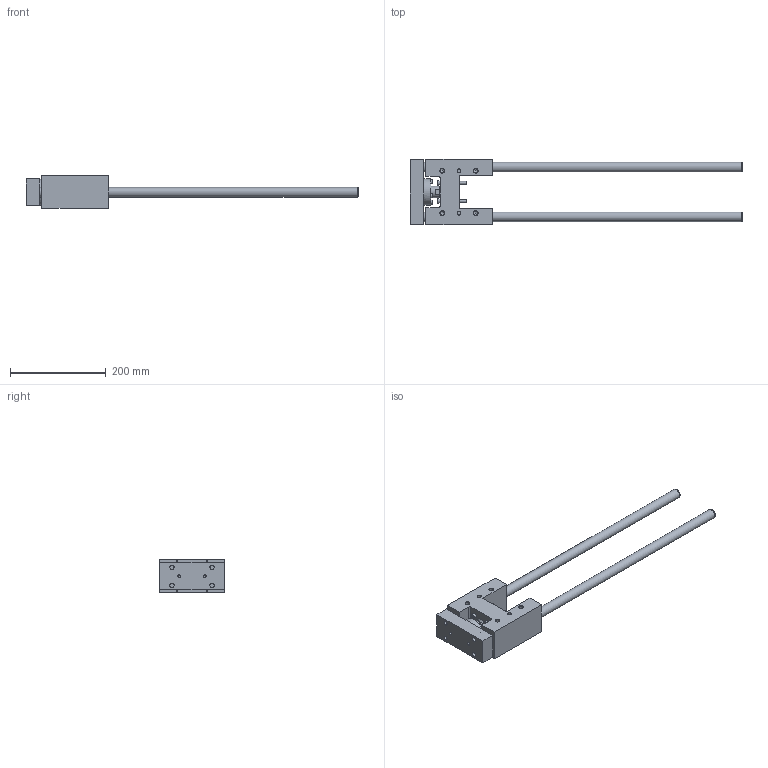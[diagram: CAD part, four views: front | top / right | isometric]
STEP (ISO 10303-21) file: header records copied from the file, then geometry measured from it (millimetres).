
FILE_DESCRIPTION( ( 'STEP AP214' ), '1' );
FILE_NAME( 'U:/Etudes/Top Solid/BIBLIO 3D AVM/TOP/PNEUMATIQUE/GUIDAGES/Type 32 (en H)/R_Renforcée/325R8_30.step', '2005-05-27T08:58:14', ( ' ' ), ( ' ' ), 'XStep 1.0', ' ', ' ' );
FILE_SCHEMA( ( 'automotive_design' ) );
Length unit declared in the file: metre
Products named in the file (2): 1; 2
Bounding box: 695 x 137 x 69 mm (x, y, z)
Volume: 1382887.8 mm3; surface area: 231149.5 mm2
Topology: 2 solids, 7 shells, 223 faces, 504 edges, 337 vertices
Faces by surface type: plane 128, cylinder 74, cone 21
Full cylindrical faces by diameter (mm): 5 x8, 6 x10, 6.5 x8, 6.647 x4, 8 x2, 8.376 x8, 8.5 x4, 9 x4, 10 x4, 10.2 x4, 10.647 x2, 15 x4, 20 x4, 24 x1, 26 x1, 34 x1, 35 x1, 37 x1, 55 x1
Entity records: 7481 total; most frequent: CARTESIAN_POINT 1145, DIRECTION 956, ORIENTED_EDGE 724, EDGE_LOOP 386, AXIS2_PLACEMENT_3D 377, EDGE_CURVE 362, FACE_OUTER_BOUND 295, VERTEX_POINT 294
